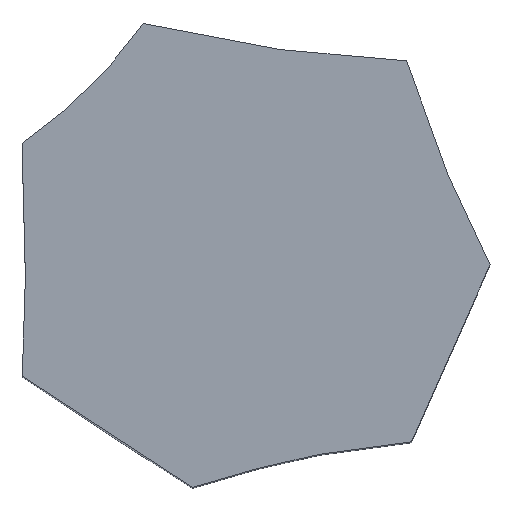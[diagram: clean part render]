
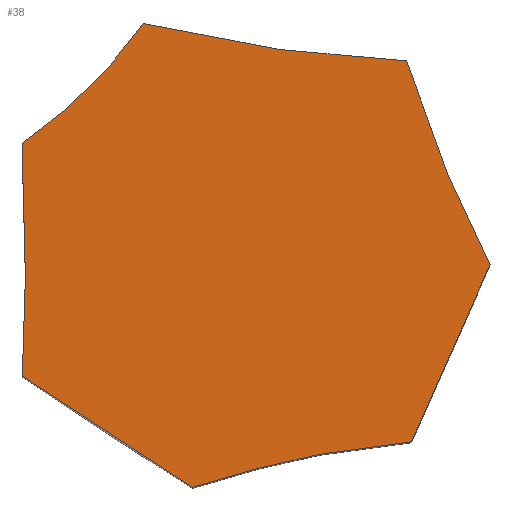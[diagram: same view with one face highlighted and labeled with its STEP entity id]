
A CAD part, top view. The second image highlights one B-rep face of the part: STEP entity #38.
In plain terms, the highlighted planar face has unit normal (0, 0, 1).
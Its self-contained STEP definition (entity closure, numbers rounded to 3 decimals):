
#38=ADVANCED_FACE('',(#53),#230,.T.);
#53=FACE_OUTER_BOUND('',#68,.T.);
#68=EDGE_LOOP('',(#122,#123,#124,#125,#126,#127,#128));
#122=ORIENTED_EDGE('',*,*,#167,.F.);
#123=ORIENTED_EDGE('',*,*,#164,.F.);
#124=ORIENTED_EDGE('',*,*,#161,.F.);
#125=ORIENTED_EDGE('',*,*,#158,.F.);
#126=ORIENTED_EDGE('',*,*,#155,.F.);
#127=ORIENTED_EDGE('',*,*,#152,.F.);
#128=ORIENTED_EDGE('',*,*,#148,.F.);
#148=EDGE_CURVE('',#210,#211,#181,.T.);
#152=EDGE_CURVE('',#211,#214,#185,.T.);
#155=EDGE_CURVE('',#214,#216,#188,.T.);
#158=EDGE_CURVE('',#216,#218,#191,.T.);
#161=EDGE_CURVE('',#218,#220,#194,.T.);
#164=EDGE_CURVE('',#220,#222,#197,.T.);
#167=EDGE_CURVE('',#222,#210,#200,.T.);
#181=B_SPLINE_CURVE_WITH_KNOTS('',2,(#370,#371,#372),.UNSPECIFIED.,.F.,
 .F.,(3,3),(-8078.486,-7067.677),.UNSPECIFIED.);
#185=B_SPLINE_CURVE_WITH_KNOTS('',2,(#380,#381,#382),.UNSPECIFIED.,.F.,
 .F.,(3,3),(-7067.677,-6061.97),.UNSPECIFIED.);
#188=B_SPLINE_CURVE_WITH_KNOTS('',2,(#388,#389,#390),.UNSPECIFIED.,.F.,
 .F.,(3,3),(-6061.97,-5067.757),.UNSPECIFIED.);
#191=B_SPLINE_CURVE_WITH_KNOTS('',2,(#396,#397,#398),.UNSPECIFIED.,.F.,
 .F.,(3,3),(-5067.757,-4050.597),.UNSPECIFIED.);
#194=B_SPLINE_CURVE_WITH_KNOTS('',2,(#404,#405,#406),.UNSPECIFIED.,.F.,
 .F.,(3,3),(-4050.597,-3052.448),.UNSPECIFIED.);
#197=B_SPLINE_CURVE_WITH_KNOTS('',2,(#412,#413,#414),.UNSPECIFIED.,.F.,
 .F.,(3,3),(-3052.448,-2021.651),.UNSPECIFIED.);
#200=B_SPLINE_CURVE_WITH_KNOTS('',2,(#420,#421,#422),.UNSPECIFIED.,.F.,
 .F.,(3,3),(-2021.651,-1010.809),.UNSPECIFIED.);
#210=VERTEX_POINT('',#356);
#211=VERTEX_POINT('',#357);
#214=VERTEX_POINT('',#360);
#216=VERTEX_POINT('',#362);
#218=VERTEX_POINT('',#364);
#220=VERTEX_POINT('',#366);
#222=VERTEX_POINT('',#368);
#230=PLANE('',#258);
#258=AXIS2_PLACEMENT_3D('',#354,#269,$);
#269=DIRECTION('',(0.,0.,1.));
#354=CARTESIAN_POINT('',(14816.625,-4080.265,582.392));
#356=CARTESIAN_POINT('',(15057.645,-4336.437,582.392));
#357=CARTESIAN_POINT('',(14939.791,-4360.991,582.392));
#360=CARTESIAN_POINT('',(14848.259,-4301.176,582.392));
#362=CARTESIAN_POINT('',(14848.095,-4175.746,582.392));
#364=CARTESIAN_POINT('',(14913.389,-4111.457,582.392));
#366=CARTESIAN_POINT('',(15054.937,-4131.514,582.392));
#368=CARTESIAN_POINT('',(15099.848,-4241.26,582.392));
#370=CARTESIAN_POINT('',(15057.645,-4336.437,582.392));
#371=CARTESIAN_POINT('',(15004.313,-4340.281,582.392));
#372=CARTESIAN_POINT('',(14939.791,-4360.991,582.392));
#380=CARTESIAN_POINT('',(14939.791,-4360.991,582.392));
#381=CARTESIAN_POINT('',(14909.433,-4342.609,582.392));
#382=CARTESIAN_POINT('',(14848.259,-4301.176,582.392));
#388=CARTESIAN_POINT('',(14848.259,-4301.176,582.392));
#389=CARTESIAN_POINT('',(14851.644,-4256.658,582.392));
#390=CARTESIAN_POINT('',(14848.095,-4175.746,582.392));
#396=CARTESIAN_POINT('',(14848.095,-4175.746,582.392));
#397=CARTESIAN_POINT('',(14886.641,-4149.28,582.392));
#398=CARTESIAN_POINT('',(14913.389,-4111.457,582.392));
#404=CARTESIAN_POINT('',(14913.389,-4111.457,582.392));
#405=CARTESIAN_POINT('',(14990.352,-4129.453,582.392));
#406=CARTESIAN_POINT('',(15054.937,-4131.514,582.392));
#412=CARTESIAN_POINT('',(15054.937,-4131.514,582.392));
#413=CARTESIAN_POINT('',(15077.432,-4199.722,582.392));
#414=CARTESIAN_POINT('',(15099.848,-4241.26,582.392));
#420=CARTESIAN_POINT('',(15099.848,-4241.26,582.392));
#421=CARTESIAN_POINT('',(15080.462,-4284.368,582.392));
#422=CARTESIAN_POINT('',(15057.645,-4336.437,582.392));
